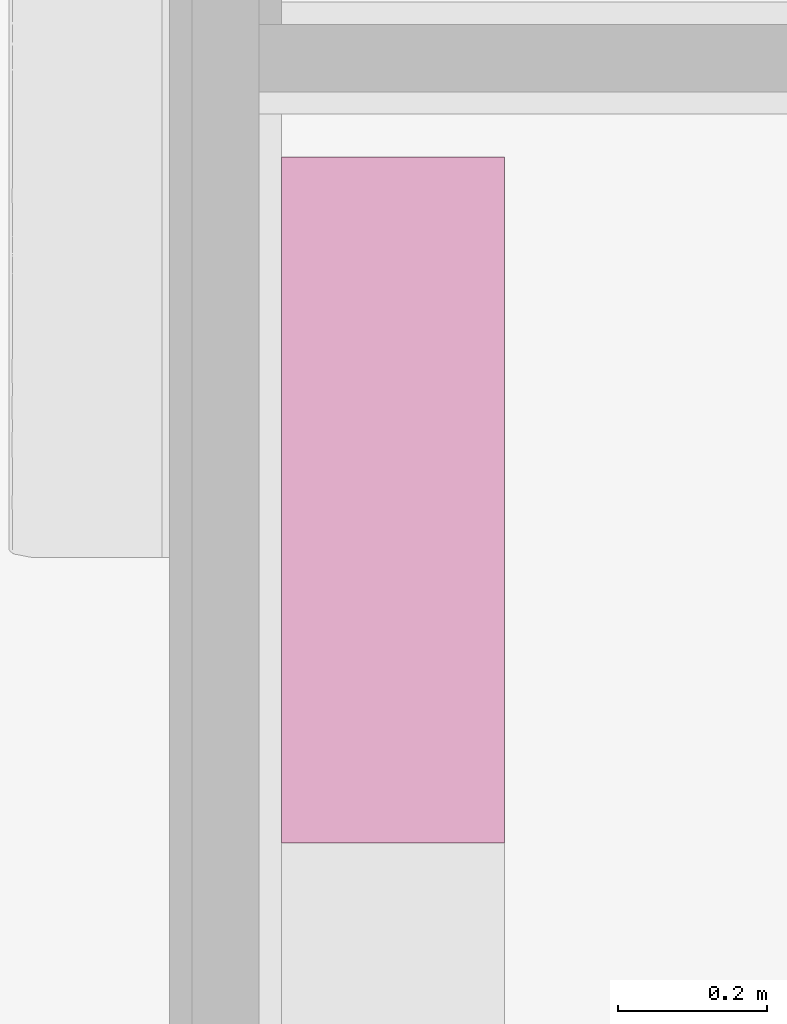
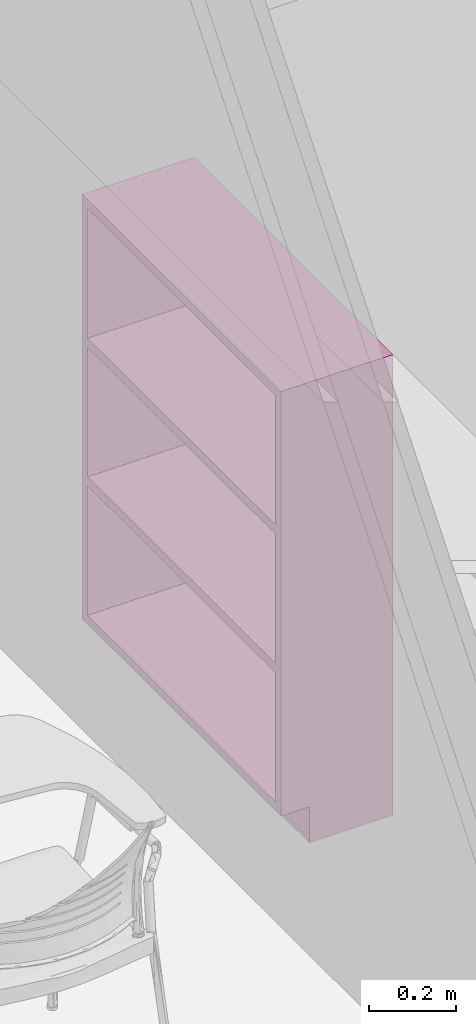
# One storey, part 77 of 155: 1 furnishing.
"""IFC2X3 building model written with IfcOpenShell, lengths in metres."""

from ifc_helpers import new_model, entity, si_unit, converted_unit, derived_unit, direction, frame, frame_2d, origin, origin_2d_with_axis, place, context, subcontext, project, spatial, polyline, rectangle, outline, extrude, source, transform, mapped, type_object, type_shapes, element, save


model = new_model("IFC2X3")

# Units and contexts
model_context = context("Model", 3, precision=1e-05, world=origin(), true_north=direction((6.12303176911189e-17, 1.0)))
body_context = subcontext(model_context, "Body", "Model", "MODEL_VIEW")
ifc_project = project(units=[si_unit("LENGTHUNIT", "METRE"), si_unit("AREAUNIT", "SQUARE_METRE"), si_unit("VOLUMEUNIT", "CUBIC_METRE"), converted_unit("PLANEANGLEUNIT", "DEGREE", entity("IfcRatioMeasure", 0.0174532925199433), si_unit("PLANEANGLEUNIT", "RADIAN"), dimensions=[0, 0, 0, 0, 0, 0, 0]), si_unit("MASSUNIT", "GRAM", prefix="KILO"), derived_unit("MASSDENSITYUNIT", [(si_unit("MASSUNIT", "GRAM", prefix="KILO"), 1), (si_unit("LENGTHUNIT", "METRE"), -3)]), si_unit("TIMEUNIT", "SECOND"), si_unit("FREQUENCYUNIT", "HERTZ"), si_unit("THERMODYNAMICTEMPERATUREUNIT", "DEGREE_CELSIUS"), derived_unit("THERMALTRANSMITTANCEUNIT", [(si_unit("MASSUNIT", "GRAM", prefix="KILO"), 1), (si_unit("THERMODYNAMICTEMPERATUREUNIT", "KELVIN"), -1), (si_unit("TIMEUNIT", "SECOND"), -3)]), derived_unit("VOLUMETRICFLOWRATEUNIT", [(si_unit("LENGTHUNIT", "METRE"), 3), (si_unit("TIMEUNIT", "SECOND"), -1)]), si_unit("ELECTRICCURRENTUNIT", "AMPERE"), si_unit("ELECTRICVOLTAGEUNIT", "VOLT"), si_unit("POWERUNIT", "WATT"), si_unit("FORCEUNIT", "NEWTON", prefix="KILO"), si_unit("ILLUMINANCEUNIT", "LUX"), si_unit("LUMINOUSFLUXUNIT", "LUMEN"), si_unit("LUMINOUSINTENSITYUNIT", "CANDELA"), derived_unit("USERDEFINED", [(si_unit("MASSUNIT", "GRAM", prefix="KILO"), -1), (si_unit("LENGTHUNIT", "METRE"), -2), (si_unit("TIMEUNIT", "SECOND"), 3), (si_unit("LUMINOUSFLUXUNIT", "LUMEN"), 1)]), derived_unit("LINEARVELOCITYUNIT", [(si_unit("LENGTHUNIT", "METRE"), 1), (si_unit("TIMEUNIT", "SECOND"), -1)]), si_unit("PRESSUREUNIT", "PASCAL"), derived_unit("USERDEFINED", [(si_unit("LENGTHUNIT", "METRE"), -2), (si_unit("MASSUNIT", "GRAM", prefix="KILO"), 1), (si_unit("TIMEUNIT", "SECOND"), -2)])], contexts=[model_context])

# Site, building, storey, space
site_placement = place(None, frame((26.9889013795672, -17.5624287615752, 0.0)))
site = spatial("IfcSite", under=ifc_project, at=site_placement, Name="Default", CompositionType="ELEMENT")
building_placement = place(site_placement, origin())
building = spatial("IfcBuilding", under=site, at=building_placement, Name="C. C. L. Monsenhor Antônio Sampaio", CompositionType="ELEMENT")
storey_placement = place(building_placement, frame((0.0, 0.0, 1.19999999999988)))
storey = spatial("IfcBuildingStorey", under=building, at=storey_placement, Name="Nível 1.2", CompositionType="ELEMENT", Elevation=1.19999999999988)
space_placement = place(storey_placement, origin())
space = spatial("IfcSpace", under=storey, at=space_placement, Name="79", CompositionType="ELEMENT", InteriorOrExteriorSpace="INTERNAL")

# Furnishing
furniture_type = type_object("IfcFurnitureType", Name="Shelving_Unit_-_Fully_Parametric_12010")
shared_shape = source(origin(), body_context, "Body", "SweptSolid", [
    extrude(rectangle(XDim=0.298954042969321, YDim=0.868105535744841, at=origin_2d_with_axis()), frame((0.0, 0.149477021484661, 0.883599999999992), z_axis=(0.0, 0.0, 1.0), x_axis=(0.0, -1.0, 0.0)), (0.0, 0.0, 1.0), 0.0254),
    extrude(rectangle(XDim=0.298954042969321, YDim=0.868105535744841, at=origin_2d_with_axis()), frame((0.0, 0.149477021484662, 0.492599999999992), z_axis=(0.0, 0.0, 1.0), x_axis=(0.0, -1.0, 0.0)), (0.0, 0.0, 1.0), 0.0254),
    extrude(rectangle(XDim=0.298954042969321, YDim=0.868105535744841, at=frame_2d((0.0, 2.77555756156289e-17), x_axis=(1.0, 0.0))), frame((0.0, 0.149477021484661, 1.27459999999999), z_axis=(0.0, 0.0, 1.0), x_axis=(0.0, -1.0, 0.0)), (0.0, 0.0, 1.0), 0.0253999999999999),
    extrude(rectangle(XDim=0.298954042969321, YDim=0.868105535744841, at=origin_2d_with_axis()), frame((0.0, 0.149477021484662, 0.101599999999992), z_axis=(0.0, 0.0, 1.0), x_axis=(0.0, -1.0, 0.0)), (0.0, 0.0, 1.0), 0.0254),
    extrude(rectangle(XDim=0.00635000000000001, YDim=0.86810553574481, at=frame_2d((1.69135538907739e-17, 0.0), x_axis=(1.0, 0.0))), frame((0.0, 0.295779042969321, 0.126999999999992), z_axis=(0.0, 0.0, 1.0), x_axis=(0.0, -1.0, 0.0)), (0.0, 0.0, 1.0), 1.1476),
    extrude(rectangle(XDim=0.015875, YDim=0.868105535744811, at=origin_2d_with_axis()), frame((0.0, 0.0841374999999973, 0.0), z_axis=(0.0, 0.0, 1.0), x_axis=(0.0, -1.0, 0.0)), (0.0, 0.0, 1.0), 0.101599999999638),
    extrude(outline(polyline([(-0.125051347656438, 0.365599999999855), (-0.125051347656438, -0.832799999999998), (0.17390269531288, -0.832799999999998), (0.17390269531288, 0.467200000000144), (-0.0488513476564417, 0.467200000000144), (-0.0488513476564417, 0.365599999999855), (-0.125051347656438, 0.365599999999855)])), frame((-0.459452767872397, 0.125051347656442, 0.467199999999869), z_axis=(-1.0, 0.0, 0.0), x_axis=(0.0, 1.0, 0.0)), (0.0, 0.0, -1.0), 0.0254),
    extrude(outline(polyline([(-0.125051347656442, 0.365599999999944), (-0.125051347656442, -0.832799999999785), (0.173902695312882, -0.832799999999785), (0.173902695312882, 0.467199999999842), (-0.0488513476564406, 0.467199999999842), (-0.0488513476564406, 0.365599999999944), (-0.125051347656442, 0.365599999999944)])), frame((0.434052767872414, 0.12505134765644, 0.467200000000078), z_axis=(-1.0, 0.0, 0.0), x_axis=(0.0, 1.0, 0.0)), (0.0, 0.0, -1.0), 0.0254),
])
type_shapes(furniture_type, [shared_shape])
furnishing_placement = place(space_placement, frame((-6.14055229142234, -36.0201350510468, 0.0), z_axis=(0.0, 0.0, 1.0), x_axis=(0.0, -1.0, 0.0)))
element("IfcFurnishingElement", 1, at=furnishing_placement, inside=space, type_object=furniture_type, Name="Shelving_Unit_-_Fully_Parametric_12010:Shelving_Unit_-_Fully_Parametric_12010", ObjectType="Shelving_Unit_-_Fully_Parametric_12010", context=body_context, shape_type="MappedRepresentation", body=[
    mapped(shared_shape, transform((0.0, 0.0, 0.0), scale=1.0)),
])

save(model, "model.ifc")
